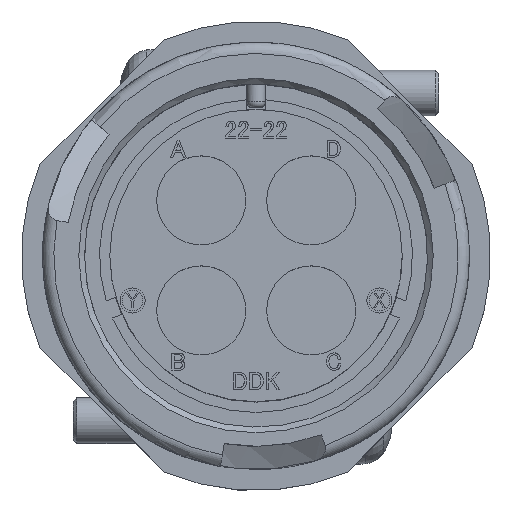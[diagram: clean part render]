
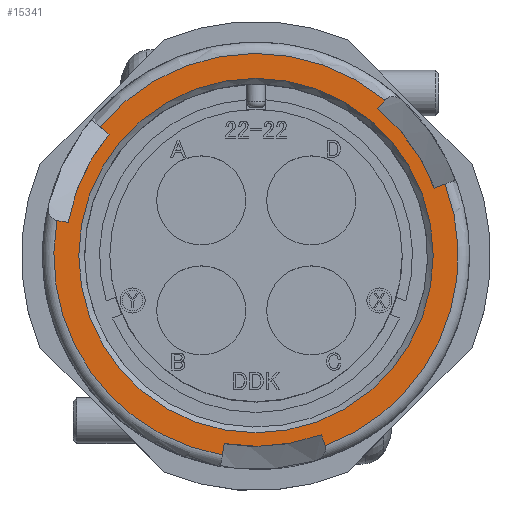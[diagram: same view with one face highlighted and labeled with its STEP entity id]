
A CAD part, top view. The second image highlights one B-rep face of the part: STEP entity #15341.
In plain terms, the highlighted planar face has unit normal (0, 0, 1).
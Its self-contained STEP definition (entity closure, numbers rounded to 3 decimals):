
#106 = DIRECTION ( 'NONE',  ( -0.935, -0.353, 0. ) ) ;
#142 = CARTESIAN_POINT ( 'NONE',  ( -16.447, 2.898, 0. ) ) ;
#175 = CARTESIAN_POINT ( 'NONE',  ( 6.06, -16.63, 0. ) ) ;
#377 = VERTEX_POINT ( 'NONE', #32873 ) ;
#429 = CARTESIAN_POINT ( 'NONE',  ( 5.718, -15.691, 0. ) ) ;
#713 = CARTESIAN_POINT ( 'NONE',  ( 0., 0., 0. ) ) ;
#848 = ORIENTED_EDGE ( 'NONE', *, *, #21718, .F. ) ;
#1139 = LINE ( 'NONE', #8547, #24917 ) ;
#1221 = CIRCLE ( 'NONE', #10985, 17.7 ) ;
#1635 = CARTESIAN_POINT ( 'NONE',  ( 11.291, 13.631, 0. ) ) ;
#1681 = CARTESIAN_POINT ( 'NONE',  ( -16.447, 2.898, 0. ) ) ;
#1938 = CARTESIAN_POINT ( 'NONE',  ( 10.653, 12.861, 0. ) ) ;
#2857 = CARTESIAN_POINT ( 'NONE',  ( 6.06, -16.63, 0. ) ) ;
#2890 = ORIENTED_EDGE ( 'NONE', *, *, #34926, .T. ) ;
#2936 = AXIS2_PLACEMENT_3D ( 'NONE', #20418, #17514, #20772 ) ;
#3000 = CIRCLE ( 'NONE', #2936, 16.7 ) ;
#3151 = EDGE_CURVE ( 'NONE', #377, #5439, #31161, .T. ) ;
#3565 = CIRCLE ( 'NONE', #6638, 15.515 ) ;
#3608 = CARTESIAN_POINT ( 'NONE',  ( -2.944, -17.454, 0. ) ) ;
#3989 = EDGE_CURVE ( 'NONE', #35179, #377, #20160, .T. ) ;
#4297 = ORIENTED_EDGE ( 'NONE', *, *, #9881, .F. ) ;
#4629 = VERTEX_POINT ( 'NONE', #429 ) ;
#5439 = VERTEX_POINT ( 'NONE', #1938 ) ;
#5481 = EDGE_CURVE ( 'NONE', #6410, #35675, #11011, .T. ) ;
#5722 = ORIENTED_EDGE ( 'NONE', *, *, #34974, .T. ) ;
#6298 = VERTEX_POINT ( 'NONE', #8068 ) ;
#6410 = VERTEX_POINT ( 'NONE', #11205 ) ;
#6638 = AXIS2_PLACEMENT_3D ( 'NONE', #23230, #29058, #28572 ) ;
#6653 = EDGE_CURVE ( 'NONE', #8524, #8524, #3565, .T. ) ;
#6686 = DIRECTION ( 'NONE',  ( 1., 0., 0. ) ) ;
#7054 = FACE_BOUND ( 'NONE', #11225, .T. ) ;
#7078 = ORIENTED_EDGE ( 'NONE', *, *, #12224, .T. ) ;
#8021 = PLANE ( 'NONE',  #18876 ) ;
#8068 = CARTESIAN_POINT ( 'NONE',  ( -2.777, -16.467, 0. ) ) ;
#8524 = VERTEX_POINT ( 'NONE', #30221 ) ;
#8531 = ORIENTED_EDGE ( 'NONE', *, *, #5481, .T. ) ;
#8547 = CARTESIAN_POINT ( 'NONE',  ( -14.412, 11.916, 0. ) ) ;
#8705 = EDGE_CURVE ( 'NONE', #18538, #29295, #3000, .T. ) ;
#8964 = AXIS2_PLACEMENT_3D ( 'NONE', #13347, #16249, #10810 ) ;
#9113 = ORIENTED_EDGE ( 'NONE', *, *, #32175, .T. ) ;
#9471 = DIRECTION ( 'NONE',  ( 0., 0., 1. ) ) ;
#9604 = CARTESIAN_POINT ( 'NONE',  ( 0., 0., 0. ) ) ;
#9881 = EDGE_CURVE ( 'NONE', #6410, #5439, #26049, .T. ) ;
#10095 = ORIENTED_EDGE ( 'NONE', *, *, #3989, .T. ) ;
#10348 = VECTOR ( 'NONE', #10957, 1000. ) ;
#10768 = B_SPLINE_CURVE_WITH_KNOTS ( 'NONE', 1,
 ( #2857, #16923 ),
 .UNSPECIFIED., .F., .F.,
 ( 2, 2 ),
 ( 0.5, 1. ),
 .UNSPECIFIED. ) ;
#10810 = DIRECTION ( 'NONE',  ( -1., 0., 0. ) ) ;
#10957 = DIRECTION ( 'NONE',  ( 0.166, 0.986, 0. ) ) ;
#10985 = AXIS2_PLACEMENT_3D ( 'NONE', #9604, #34208, #33963 ) ;
#11011 = CIRCLE ( 'NONE', #8964, 17.7 ) ;
#11205 = CARTESIAN_POINT ( 'NONE',  ( 11.291, 13.631, 0. ) ) ;
#11225 = EDGE_LOOP ( 'NONE', ( #32429 ) ) ;
#12224 = EDGE_CURVE ( 'NONE', #35675, #18538, #1139, .T. ) ;
#12268 = VERTEX_POINT ( 'NONE', #175 ) ;
#13347 = CARTESIAN_POINT ( 'NONE',  ( 0., 0., 0. ) ) ;
#13471 = CIRCLE ( 'NONE', #31757, 16.7 ) ;
#13713 = DIRECTION ( 'NONE',  ( -1., 0., 0. ) ) ;
#13975 = CARTESIAN_POINT ( 'NONE',  ( -3.11, -18.44, 0. ) ) ;
#14058 = CARTESIAN_POINT ( 'NONE',  ( 17.494, 6.607, 0. ) ) ;
#14481 = VERTEX_POINT ( 'NONE', #3608 ) ;
#15317 = ORIENTED_EDGE ( 'NONE', *, *, #19779, .T. ) ;
#15341 = ADVANCED_FACE ( 'NONE', ( #7054, #24722 ), #8021, .F. ) ;
#16022 = EDGE_CURVE ( 'NONE', #12268, #4629, #10768, .T. ) ;
#16249 = DIRECTION ( 'NONE',  ( 0., 0., 1. ) ) ;
#16792 = DIRECTION ( 'NONE',  ( 0.771, -0.637, 0. ) ) ;
#16819 = DIRECTION ( 'NONE',  ( 1., 0., 0. ) ) ;
#16923 = CARTESIAN_POINT ( 'NONE',  ( 5.718, -15.691, 0. ) ) ;
#17282 = CARTESIAN_POINT ( 'NONE',  ( 0., 0., 0. ) ) ;
#17511 = CARTESIAN_POINT ( 'NONE',  ( -12.87, 10.642, 0. ) ) ;
#17514 = DIRECTION ( 'NONE',  ( 0., 0., 1. ) ) ;
#17549 = VECTOR ( 'NONE', #106, 1000. ) ;
#18538 = VERTEX_POINT ( 'NONE', #17511 ) ;
#18716 = CARTESIAN_POINT ( 'NONE',  ( -17.431, 3.072, 0. ) ) ;
#18876 = AXIS2_PLACEMENT_3D ( 'NONE', #24881, #30010, #13713 ) ;
#19096 = VERTEX_POINT ( 'NONE', #18716 ) ;
#19199 = AXIS2_PLACEMENT_3D ( 'NONE', #25976, #9471, #20695 ) ;
#19779 = EDGE_CURVE ( 'NONE', #19096, #14481, #34014, .T. ) ;
#20160 = LINE ( 'NONE', #14058, #17549 ) ;
#20418 = CARTESIAN_POINT ( 'NONE',  ( 0., 0., 0. ) ) ;
#20695 = DIRECTION ( 'NONE',  ( -1., 0., 0. ) ) ;
#20772 = DIRECTION ( 'NONE',  ( 1., 0., 0. ) ) ;
#21120 = CARTESIAN_POINT ( 'NONE',  ( 10.653, 12.861, 0. ) ) ;
#21718 = EDGE_CURVE ( 'NONE', #19096, #29295, #25676, .T. ) ;
#22442 = ORIENTED_EDGE ( 'NONE', *, *, #16022, .F. ) ;
#23230 = CARTESIAN_POINT ( 'NONE',  ( 0., 0., 0. ) ) ;
#24722 = FACE_OUTER_BOUND ( 'NONE', #27096, .T. ) ;
#24866 = ORIENTED_EDGE ( 'NONE', *, *, #3151, .T. ) ;
#24881 = CARTESIAN_POINT ( 'NONE',  ( 0., 18.7, 0. ) ) ;
#24917 = VECTOR ( 'NONE', #16792, 1000. ) ;
#25676 = B_SPLINE_CURVE_WITH_KNOTS ( 'NONE', 1,
 ( #31909, #1681 ),
 .UNSPECIFIED., .F., .F.,
 ( 2, 2 ),
 ( 0.5, 1. ),
 .UNSPECIFIED. ) ;
#25976 = CARTESIAN_POINT ( 'NONE',  ( 0., 0., 0. ) ) ;
#26049 = B_SPLINE_CURVE_WITH_KNOTS ( 'NONE', 1,
 ( #1635, #21120 ),
 .UNSPECIFIED., .F., .F.,
 ( 2, 2 ),
 ( 0.5, 1. ),
 .UNSPECIFIED. ) ;
#26736 = LINE ( 'NONE', #13975, #10348 ) ;
#27096 = EDGE_LOOP ( 'NONE', ( #22442, #5722, #10095, #24866, #4297, #8531, #7078, #30725, #848, #15317, #2890, #9113 ) ) ;
#27788 = AXIS2_PLACEMENT_3D ( 'NONE', #17282, #30914, #16819 ) ;
#28286 = DIRECTION ( 'NONE',  ( 0., 0., 1. ) ) ;
#28572 = DIRECTION ( 'NONE',  ( -1., 0., 0. ) ) ;
#28671 = CARTESIAN_POINT ( 'NONE',  ( -13.641, 11.279, 0. ) ) ;
#28951 = CARTESIAN_POINT ( 'NONE',  ( 16.558, 6.254, 0. ) ) ;
#29058 = DIRECTION ( 'NONE',  ( 0., 0., -1. ) ) ;
#29295 = VERTEX_POINT ( 'NONE', #142 ) ;
#30010 = DIRECTION ( 'NONE',  ( 0., 0., -1. ) ) ;
#30221 = CARTESIAN_POINT ( 'NONE',  ( -15.515, 0., 0. ) ) ;
#30725 = ORIENTED_EDGE ( 'NONE', *, *, #8705, .T. ) ;
#30914 = DIRECTION ( 'NONE',  ( 0., 0., 1. ) ) ;
#31161 = CIRCLE ( 'NONE', #27788, 16.7 ) ;
#31757 = AXIS2_PLACEMENT_3D ( 'NONE', #713, #28286, #6686 ) ;
#31909 = CARTESIAN_POINT ( 'NONE',  ( -17.431, 3.072, 0. ) ) ;
#32175 = EDGE_CURVE ( 'NONE', #6298, #4629, #13471, .T. ) ;
#32429 = ORIENTED_EDGE ( 'NONE', *, *, #6653, .T. ) ;
#32873 = CARTESIAN_POINT ( 'NONE',  ( 15.623, 5.901, 0. ) ) ;
#33963 = DIRECTION ( 'NONE',  ( -1., 0., 0. ) ) ;
#34014 = CIRCLE ( 'NONE', #19199, 17.7 ) ;
#34208 = DIRECTION ( 'NONE',  ( 0., 0., 1. ) ) ;
#34926 = EDGE_CURVE ( 'NONE', #14481, #6298, #26736, .T. ) ;
#34974 = EDGE_CURVE ( 'NONE', #12268, #35179, #1221, .T. ) ;
#35179 = VERTEX_POINT ( 'NONE', #28951 ) ;
#35675 = VERTEX_POINT ( 'NONE', #28671 ) ;
